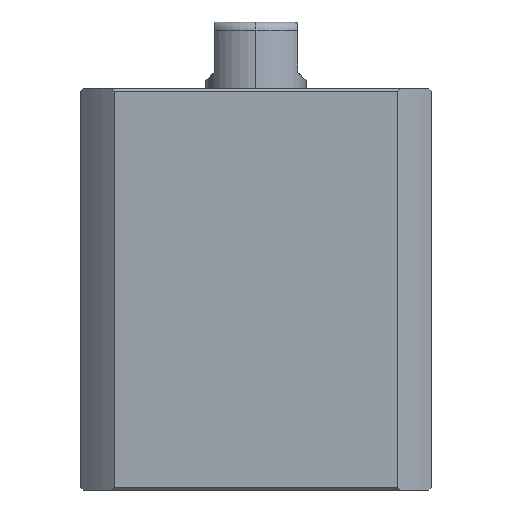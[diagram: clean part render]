
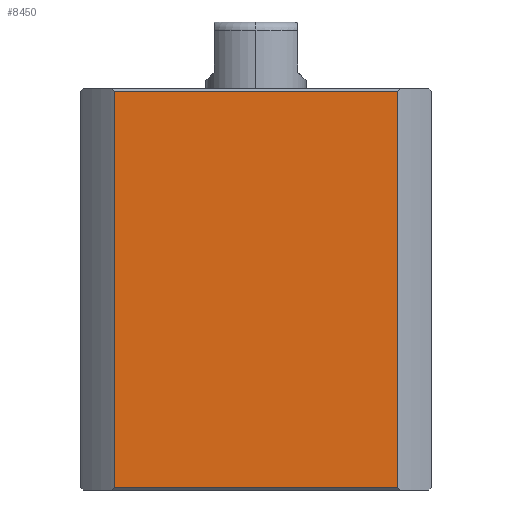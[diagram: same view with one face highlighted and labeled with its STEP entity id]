
A CAD part, left-side view. The second image highlights one B-rep face of the part: STEP entity #8450.
In plain terms, the highlighted planar face has unit normal (-1, 0, 0).
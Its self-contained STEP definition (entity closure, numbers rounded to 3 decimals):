
#12 = CARTESIAN_POINT ( 'NONE',  ( -21., -16.971, -252. ) ) ;
#270 = EDGE_CURVE ( 'NONE', #2427, #5925, #12084, .T. ) ;
#286 = ORIENTED_EDGE ( 'NONE', *, *, #270, .F. ) ;
#664 = VECTOR ( 'NONE', #11965, 1000. ) ;
#971 = CARTESIAN_POINT ( 'NONE',  ( -21., 16.971, 0.3 ) ) ;
#1059 = EDGE_LOOP ( 'NONE', ( #11908, #11416, #286, #11482 ) ) ;
#1537 = DIRECTION ( 'NONE',  ( 0., 0., 1. ) ) ;
#1899 = CARTESIAN_POINT ( 'NONE',  ( -21., -16.971, 47.7 ) ) ;
#2110 = VECTOR ( 'NONE', #5653, 1000. ) ;
#2178 = CARTESIAN_POINT ( 'NONE',  ( -21., 16.971, 47.7 ) ) ;
#2408 = LINE ( 'NONE', #7130, #12093 ) ;
#2427 = VERTEX_POINT ( 'NONE', #1899 ) ;
#3854 = VERTEX_POINT ( 'NONE', #971 ) ;
#3913 = LINE ( 'NONE', #6830, #8571 ) ;
#4462 = EDGE_CURVE ( 'NONE', #2427, #9721, #3913, .T. ) ;
#4538 = FACE_OUTER_BOUND ( 'NONE', #1059, .T. ) ;
#4563 = AXIS2_PLACEMENT_3D ( 'NONE', #10026, #10954, #5339 ) ;
#4685 = EDGE_CURVE ( 'NONE', #3854, #9721, #2408, .T. ) ;
#5339 = DIRECTION ( 'NONE',  ( 0., 1., 0. ) ) ;
#5653 = DIRECTION ( 'NONE',  ( 0., 0., -1. ) ) ;
#5925 = VERTEX_POINT ( 'NONE', #11620 ) ;
#6830 = CARTESIAN_POINT ( 'NONE',  ( -21., 21., 47.7 ) ) ;
#7130 = CARTESIAN_POINT ( 'NONE',  ( -21., 16.971, -252. ) ) ;
#7221 = CARTESIAN_POINT ( 'NONE',  ( -21., 21., 0.3 ) ) ;
#8450 = ADVANCED_FACE ( 'NONE', ( #4538 ), #9066, .F. ) ;
#8571 = VECTOR ( 'NONE', #9691, 1000. ) ;
#9066 = PLANE ( 'NONE',  #4563 ) ;
#9691 = DIRECTION ( 'NONE',  ( 0., 1., 0. ) ) ;
#9721 = VERTEX_POINT ( 'NONE', #2178 ) ;
#10026 = CARTESIAN_POINT ( 'NONE',  ( -21., 21., 48. ) ) ;
#10094 = EDGE_CURVE ( 'NONE', #3854, #5925, #10946, .T. ) ;
#10946 = LINE ( 'NONE', #7221, #664 ) ;
#10954 = DIRECTION ( 'NONE',  ( 1., 0., 0. ) ) ;
#11416 = ORIENTED_EDGE ( 'NONE', *, *, #10094, .T. ) ;
#11482 = ORIENTED_EDGE ( 'NONE', *, *, #4462, .T. ) ;
#11620 = CARTESIAN_POINT ( 'NONE',  ( -21., -16.971, 0.3 ) ) ;
#11908 = ORIENTED_EDGE ( 'NONE', *, *, #4685, .F. ) ;
#11965 = DIRECTION ( 'NONE',  ( 0., -1., 0. ) ) ;
#12084 = LINE ( 'NONE', #12, #2110 ) ;
#12093 = VECTOR ( 'NONE', #1537, 1000. ) ;
